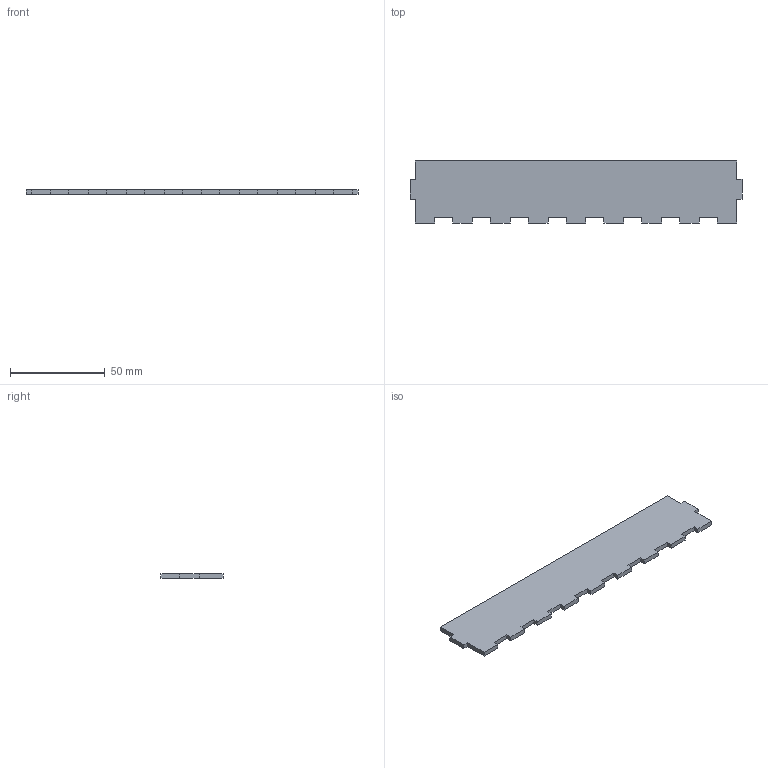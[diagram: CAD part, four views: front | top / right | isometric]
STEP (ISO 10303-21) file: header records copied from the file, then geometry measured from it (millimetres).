
FILE_DESCRIPTION (( 'STEP AP214' ), '1' );
FILE_NAME ('largesideboxie.STEP', '2025-06-15T00:41:38', ( '' ), ( '' ), 'SwSTEP 2.0', 'SolidWorks 2024', '' );
FILE_SCHEMA (( 'AUTOMOTIVE_DESIGN' ));
Length unit declared in the file: millimetre
Products named in the file (1): largesideboxie
Bounding box: 175.6 x 32.8 x 2.5 mm (x, y, z)
Volume: 13551.5 mm3; surface area: 11995.2 mm2
Topology: 1 solids, 1 shells, 46 faces, 132 edges, 88 vertices
Faces by surface type: plane 46
Entity records: 1499 total; most frequent: CARTESIAN_POINT 267, ORIENTED_EDGE 264, DIRECTION 226, LINE 132, VECTOR 132, EDGE_CURVE 132, VERTEX_POINT 88, AXIS2_PLACEMENT_3D 47
